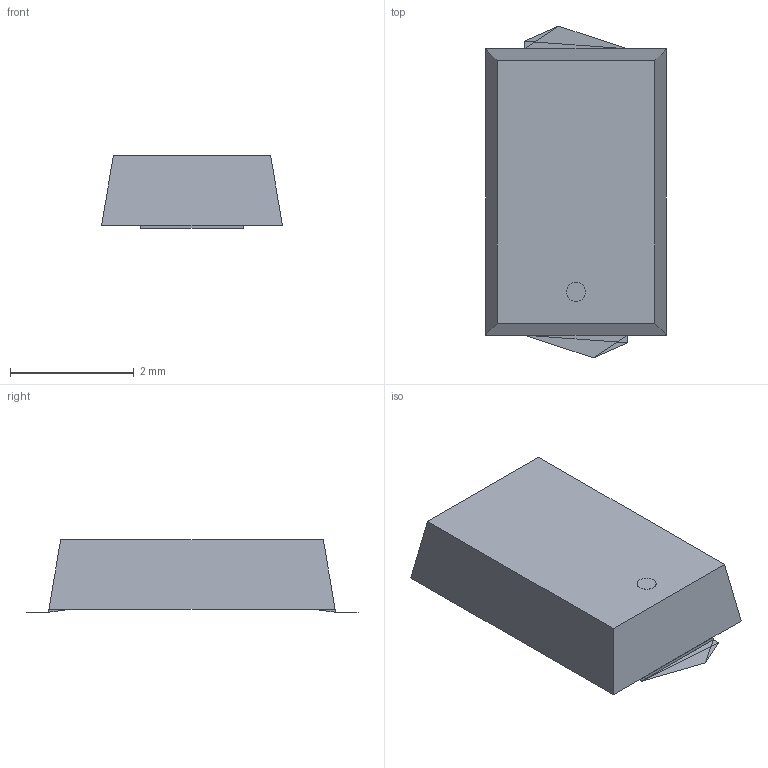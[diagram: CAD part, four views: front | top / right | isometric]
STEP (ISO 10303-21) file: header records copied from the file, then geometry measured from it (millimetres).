
FILE_DESCRIPTION(('STEP AP214'),'1');
FILE_NAME('SMAFLATNOTCH_2P9X4P6_STM','2024-02-24T08:21:32',(''),(''),'','','');
FILE_SCHEMA(('AUTOMOTIVE_DESIGN'));
Length unit declared in the file: millimetre
Products named in the file (1): product
Bounding box: 2.92 x 5.36 x 1.17 mm (x, y, z)
Volume: 13.6 mm3; surface area: 45.3 mm2
Topology: 4 solids, 4 shells, 31 faces, 47 edges, 26 vertices
Faces by surface type: plane 30, cylinder 1
Full cylindrical faces by diameter (mm): 0.308 x1
Entity records: 805 total; most frequent: ORIENTED_EDGE 116, DIRECTION 108, CARTESIAN_POINT 63, EDGE_CURVE 44, LINE 42, VECTOR 42, AXIS2_PLACEMENT_3D 33, EDGE_LOOP 30
